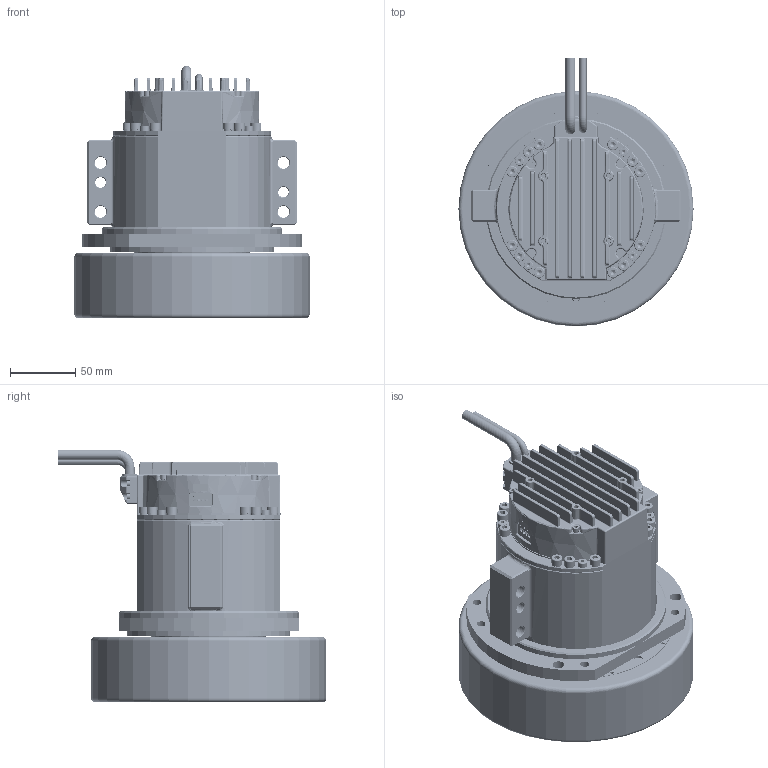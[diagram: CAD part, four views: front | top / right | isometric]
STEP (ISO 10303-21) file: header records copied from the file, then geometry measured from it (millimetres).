
FILE_DESCRIPTION (( 'STEP AP203' ), '1' );
FILE_NAME ('307090978SS (iWMK104H11-04023-A180-MBDT)-V1.0.STEP', '2024-05-30T05:48:03', ( '' ), ( '' ), 'SwSTEP 2.0', 'SolidWorks 2023', '' );
FILE_SCHEMA (( 'CONFIG_CONTROL_DESIGN' ));
Length unit declared in the file: millimetre
Products named in the file (1): 307090978SS (iWMK104H11-04023-A180-MBDT)-V1.0
Bounding box: 180 x 205.5 x 193.3 mm (x, y, z)
Volume: 1794553.3 mm3; surface area: 562049.5 mm2
Topology: 78 solids, 78 shells, 3592 faces, 8516 edges, 5203 vertices
Faces by surface type: plane 1364, cylinder 1079, cone 614, torus 288, bspline 219, sphere 28
Full cylindrical faces by diameter (mm): 2 x2, 2.5 x120, 2.7 x8, 3 x7, 3.3 x4, 3.5 x6, 4 x7, 4.5 x8, 5 x16, 5.4 x12, 5.5 x36, 7 x4, 7.6 x3, 8 x15, 8.5 x12, 9 x4, 12 x1, 15 x1, 17 x1, 19.6 x1, 20 x2, 24 x1, 25 x1, 26 x1, 37 x1, 42 x1, 47 x1, 47.3 x2, 57.3 x2, 63.3 x1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
Entity records: 107984 total; most frequent: CARTESIAN_POINT 29106, DIRECTION 16444, ORIENTED_EDGE 15444, EDGE_CURVE 7722, AXIS2_PLACEMENT_3D 6412, VERTEX_POINT 5091, EDGE_LOOP 4671, FACE_OUTER_BOUND 3885
